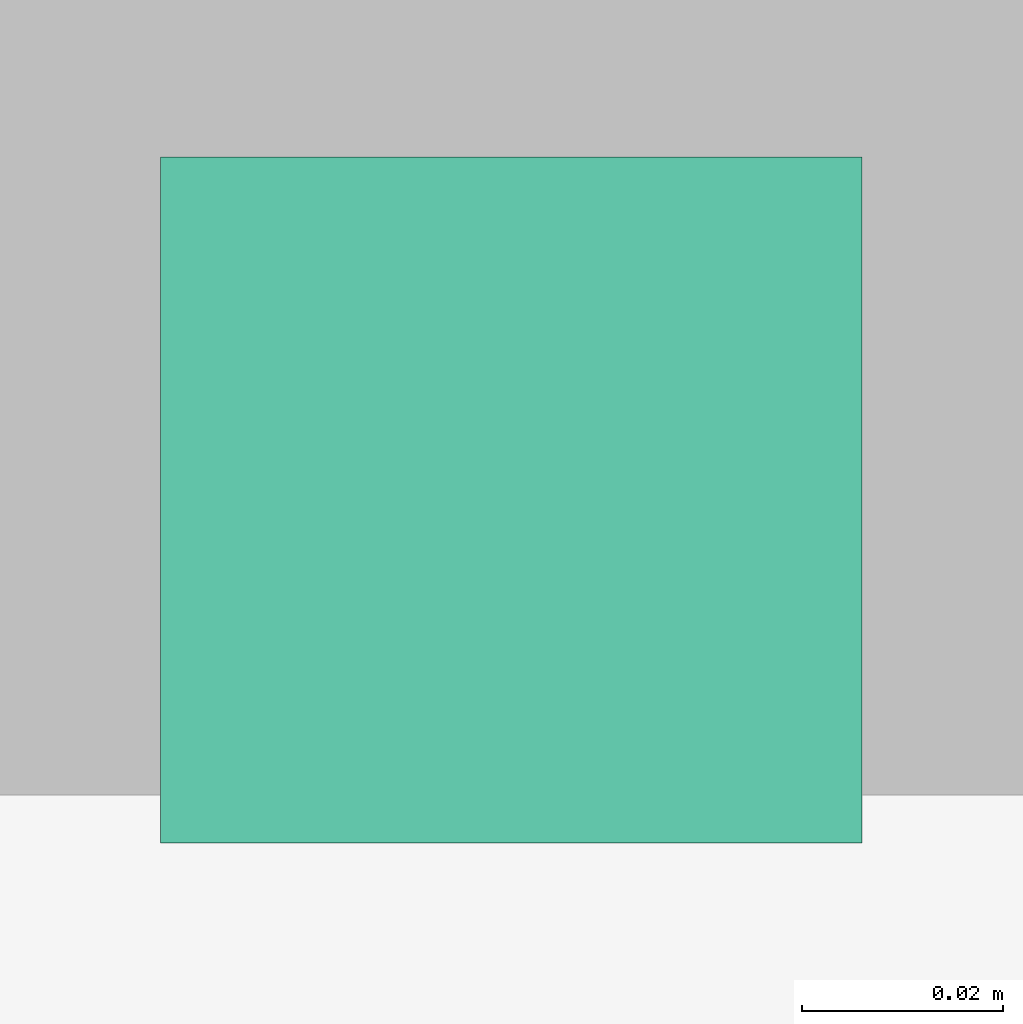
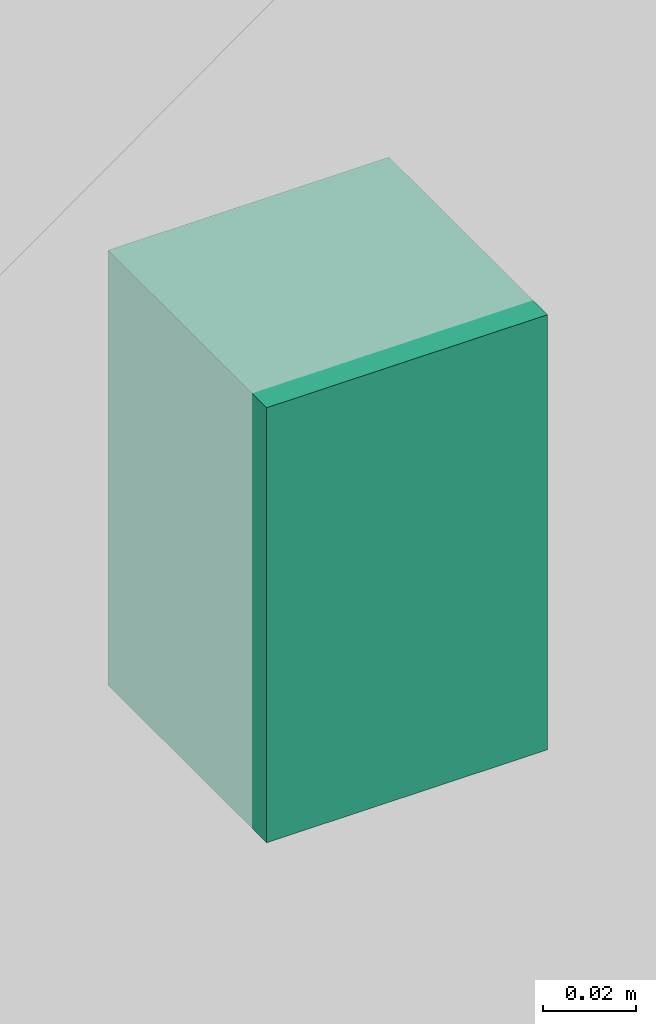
# One storey, part 82 of 108: 1 outlet.
"""IFC4 building model written with IfcOpenShell, lengths in feet."""

import ifcopenshell
import ifcopenshell.guid

model = None  # the IFC model being written
_history = None  # IfcOwnerHistory: only IFC2X3 demands one
_inside = {}  # id of a spatial element -> (the spatial element, [elements in it])
_under = {}  # id of a project, library or spatial element -> (it, [spatial elements below it])
_declared = {}  # id of a project -> (the project, [libraries it declares])
_typed = {}  # id of a type object -> (the type object, [elements of that type])
_made_of = {}  # id of a material, layer set ... -> (it, [elements and type objects made of it])


def new_model(schema):
    """Start an empty IFC model of exactly this schema.

    Asked for "IFC4X3", IfcOpenShell would pick the latest addendum, in which some entities
    have other attributes; the version numbers below select the first issue.
    IFC2X3 requires an IfcOwnerHistory on every rooted entity: one is made here for all.
    """
    global model, _history
    if schema == "IFC4X3":
        model = ifcopenshell.file(schema_version=(4, 3, 0, 0))
    else:
        model = ifcopenshell.file(schema=schema)
    _inside.clear()
    _under.clear()
    _declared.clear()
    _typed.clear()
    _made_of.clear()
    _history = None
    if model.schema == "IFC2X3":
        org = make("IfcOrganization", Name="unknown")
        user = make(
            "IfcPersonAndOrganization",
            ThePerson=make("IfcPerson", FamilyName="unknown"),
            TheOrganization=org,
        )
        app = make(
            "IfcApplication",
            ApplicationDeveloper=org,
            Version="unknown",
            ApplicationFullName="unknown",
            ApplicationIdentifier="unknown",
        )
        _history = make(
            "IfcOwnerHistory",
            OwningUser=user,
            OwningApplication=app,
            ChangeAction="ADDED",
            CreationDate=0,
        )
    return model


def make(cls, **values):
    """One entity of the class cls with the attributes given. An attribute that is None is left unset."""
    return model.create_entity(
        cls, **{name: value for name, value in values.items() if value is not None}
    )


def entity(cls, *values):
    """Any entity or typed value of the class cls, its attributes in the order of the schema. None: left unset."""
    e = model.create_entity(cls)
    for i, value in enumerate(values):
        if value is not None:
            e[i] = value
    return e


def rooted(cls, **values):
    """An entity with a GlobalId (a new one), such as an element, a storey or a relation."""
    return make(cls, GlobalId=ifcopenshell.guid.new(), OwnerHistory=_history, **values)


def si_unit(unit_type, name, prefix=None):
    """IfcSIUnit, for example si_unit("LENGTHUNIT", "METRE", prefix="MILLI")."""
    return make("IfcSIUnit", UnitType=unit_type, Prefix=prefix, Name=name)


def converted_unit(unit_type, name, factor, base, dimensions=None, offset=None):
    """IfcConversionBasedUnit, such as the inch: factor (a typed value) times the base unit."""
    return make(
        "IfcConversionBasedUnit"
        if offset is None
        else "IfcConversionBasedUnitWithOffset",
        ConversionOffset=offset,
        Dimensions=None
        if dimensions is None
        else entity("IfcDimensionalExponents", *dimensions),
        UnitType=unit_type,
        Name=name,
        ConversionFactor=make(
            "IfcMeasureWithUnit", ValueComponent=factor, UnitComponent=base
        ),
    )


def derived_unit(unit_type, elements):
    """IfcDerivedUnit: a product of units, each with its exponent."""
    return make(
        "IfcDerivedUnit",
        Elements=[
            make("IfcDerivedUnitElement", Unit=unit, Exponent=power)
            for unit, power in elements
        ],
        UnitType=unit_type,
    )


def assignment(units):
    """IfcUnitAssignment: the units of a project."""
    return None if units is None else make("IfcUnitAssignment", Units=units)


def point(xyz):
    """IfcCartesianPoint."""
    return None if xyz is None else make("IfcCartesianPoint", Coordinates=xyz)


def direction(xyz):
    """IfcDirection."""
    return None if xyz is None else make("IfcDirection", DirectionRatios=xyz)


def frame(location, z_axis=None, x_axis=None):
    """IfcAxis2Placement3D, a coordinate frame: its origin and axes. An axis left out is left unset."""
    return make(
        "IfcAxis2Placement3D",
        Location=point(location),
        Axis=direction(z_axis),
        RefDirection=direction(x_axis),
    )


def frame_2d(location, x_axis=None):
    """IfcAxis2Placement2D, a coordinate frame in the plane: its origin and x axis."""
    return make(
        "IfcAxis2Placement2D", Location=point(location), RefDirection=direction(x_axis)
    )


def origin():
    """The frame at (0, 0, 0) with its axes left unset."""
    return frame((0.0, 0.0, 0.0))


def origin_2d_with_axis():
    """The frame at (0, 0) in the plane with the x axis (1, 0) written out."""
    return frame_2d((0.0, 0.0), x_axis=(1.0, 0.0))


def place(relative_to, where):
    """IfcLocalPlacement: puts the frame where relative to a parent placement (None: the world)."""
    return make(
        "IfcLocalPlacement", PlacementRelTo=relative_to, RelativePlacement=where
    )


def context(
    kind, dimensions, precision=None, world=None, true_north=None, identifier=None
):
    """IfcGeometricRepresentationContext, for example the 3D "Model" context."""
    return make(
        "IfcGeometricRepresentationContext",
        ContextIdentifier=identifier,
        ContextType=kind,
        CoordinateSpaceDimension=dimensions,
        Precision=precision,
        WorldCoordinateSystem=world,
        TrueNorth=true_north,
    )


def subcontext(parent, identifier, kind, view, scale=None):
    """IfcGeometricRepresentationSubContext, for example "Body" below "Model"."""
    return make(
        "IfcGeometricRepresentationSubContext",
        ContextIdentifier=identifier,
        ContextType=kind,
        ParentContext=parent,
        TargetScale=scale,
        TargetView=view,
    )


def project(units=None, contexts=None):
    """IfcProject with its units and contexts."""
    return rooted(
        "IfcProject",
        Name="project",
        RepresentationContexts=contexts,
        UnitsInContext=assignment(units),
    )


def spatial(cls, under=None, at=None, **own):
    """A site, building, storey or space (cls), placed at a placement, below another one or the project."""
    s = rooted(cls, ObjectPlacement=at, **own)
    if under is not None:
        _under.setdefault(under.id(), (under, []))[1].append(s)
    return s


def profile(cls, at=None, kind="AREA", **sizes):
    """A parametric profile (cls). Its sizes go by their IFC names, for example OverallWidth=200.0."""
    return make(cls, ProfileType=kind, Position=at, **sizes)


def rectangle(**sizes):
    """IfcRectangleProfileDef."""
    return profile("IfcRectangleProfileDef", **sizes)


def extrude(swept, where, along, depth):
    """IfcExtrudedAreaSolid: the profile swept, set in the frame where, extruded along a direction by depth."""
    return make(
        "IfcExtrudedAreaSolid",
        SweptArea=swept,
        Position=where,
        ExtrudedDirection=direction(along),
        Depth=depth,
    )


def shape(context_of_items, identifier, shape_type, items):
    """IfcShapeRepresentation: the items that make up one representation, for example the "Body"."""
    return make(
        "IfcShapeRepresentation",
        ContextOfItems=context_of_items,
        RepresentationIdentifier=identifier,
        RepresentationType=shape_type,
        Items=items,
    )


def source(mapping_origin, context_of_items, identifier, shape_type, items):
    """IfcRepresentationMap: a shape defined once, which mapped items show again and again."""
    return make(
        "IfcRepresentationMap",
        MappingOrigin=mapping_origin,
        MappedRepresentation=shape(context_of_items, identifier, shape_type, items),
    )


def transform(
    local_origin,
    x_axis=None,
    y_axis=None,
    z_axis=None,
    scale=None,
    scale2=None,
    scale3=None,
    uniform=True,
):
    """IfcCartesianTransformationOperator3D, or its non-uniform kind. x_axis, y_axis, z_axis: its Axis1, 2, 3."""
    if uniform:
        return make(
            "IfcCartesianTransformationOperator3D",
            Axis1=direction(x_axis),
            Axis2=direction(y_axis),
            LocalOrigin=point(local_origin),
            Scale=scale,
            Axis3=direction(z_axis),
        )
    return make(
        "IfcCartesianTransformationOperator3DnonUniform",
        Axis1=direction(x_axis),
        Axis2=direction(y_axis),
        LocalOrigin=point(local_origin),
        Scale=scale,
        Axis3=direction(z_axis),
        Scale2=scale2,
        Scale3=scale3,
    )


def mapped(mapping_source, mapping_target):
    """IfcMappedItem: shows the shape of a source again, moved by a transform."""
    return make(
        "IfcMappedItem", MappingSource=mapping_source, MappingTarget=mapping_target
    )


def made_of(thing, what):
    """Note that an element or type object is made of a material, layer set ...; save() writes the relation."""
    if what is not None:
        _made_of.setdefault(what.id(), (what, []))[1].append(thing)
    return thing


def type_object(cls, material=None, **own):
    """A type object (cls), such as IfcWallType, which elements share."""
    return made_of(rooted(cls, **own), material)


def type_shapes(of_type, sources):
    """Give a type object the sources (RepresentationMaps) that its elements show as mapped items."""
    of_type.RepresentationMaps = sources


def element(
    cls,
    number,
    at=None,
    inside=None,
    cuts=None,
    type_object=None,
    material=None,
    context=None,
    identifier="Body",
    shape_type=None,
    held_by="IfcProductDefinitionShape",
    body=None,
    shapes=None,
    **own,
):
    """One element of the class cls, such as IfcWall. Its Tag is "e" and its number.

    at: its placement. inside: the storey or other place that contains it. cuts: it is an
    opening in that element (IfcRelVoidsElement). A single representation is given by context,
    identifier, shape_type and body (its items); several are given by shapes. held_by: the class
    of the entity that holds the representations. save() writes the other relations.
    """
    e = rooted(cls, Tag="e%d" % number, ObjectPlacement=at, **own)
    if body is not None:
        shapes = [shape(context, identifier, shape_type, body)]
    if shapes is not None:
        e.Representation = make(held_by, Representations=shapes)
    if inside is not None:
        _inside.setdefault(inside.id(), (inside, []))[1].append(e)
    if cuts is not None:
        rooted(
            "IfcRelVoidsElement", RelatingBuildingElement=cuts, RelatedOpeningElement=e
        )
    if type_object is not None:
        _typed.setdefault(type_object.id(), (type_object, []))[1].append(e)
    return made_of(e, material)


def aggregate(whole, parts):
    """IfcRelAggregates: a whole, such as a stair, and the parts it consists of."""
    return rooted("IfcRelAggregates", RelatingObject=whole, RelatedObjects=parts)


def save(model, path):
    """Write the relations noted so far, then the file.

    IfcRelAggregates (storeys below a building ...), IfcRelContainedInSpatialStructure (elements
    in a storey), IfcRelDefinesByType, IfcRelAssociatesMaterial and IfcRelDeclares: one each for
    every whole, place, type object, material and project.
    """
    for whole, parts in _under.values():
        aggregate(whole, parts)
    for where, things in _inside.values():
        rooted(
            "IfcRelContainedInSpatialStructure",
            RelatedElements=things,
            RelatingStructure=where,
        )
    for kind, things in _typed.values():
        rooted("IfcRelDefinesByType", RelatedObjects=things, RelatingType=kind)
    for what, things in _made_of.values():
        rooted("IfcRelAssociatesMaterial", RelatedObjects=things, RelatingMaterial=what)
    for by, libraries in _declared.values():
        rooted("IfcRelDeclares", RelatingContext=by, RelatedDefinitions=libraries)
    model.write(path)


model = new_model("IFC4")

# Units and contexts
model_context = context("Model", 3, precision=0.0001, world=origin(), true_north=direction((6.12303176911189e-17, 1.0)))
body_context = subcontext(model_context, "Body", "Model", "MODEL_VIEW")
ifc_project = project(units=[converted_unit("LENGTHUNIT", "FOOT", entity("IfcRatioMeasure", 0.3048), si_unit("LENGTHUNIT", "METRE"), dimensions=[1, 0, 0, 0, 0, 0, 0]), converted_unit("AREAUNIT", "SQUARE FOOT", entity("IfcRatioMeasure", 0.09290304), si_unit("AREAUNIT", "SQUARE_METRE"), dimensions=[2, 0, 0, 0, 0, 0, 0]), converted_unit("VOLUMEUNIT", "CUBIC FOOT", entity("IfcRatioMeasure", 0.028316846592), si_unit("VOLUMEUNIT", "CUBIC_METRE"), dimensions=[3, 0, 0, 0, 0, 0, 0]), converted_unit("PLANEANGLEUNIT", "DEGREE", entity("IfcRatioMeasure", 0.0174532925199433), si_unit("PLANEANGLEUNIT", "RADIAN"), dimensions=[0, 0, 0, 0, 0, 0, 0]), si_unit("MASSUNIT", "GRAM", prefix="KILO"), derived_unit("MASSDENSITYUNIT", [(si_unit("MASSUNIT", "GRAM", prefix="KILO"), 1), (si_unit("LENGTHUNIT", "METRE"), -3)]), si_unit("TIMEUNIT", "SECOND"), si_unit("FREQUENCYUNIT", "HERTZ"), si_unit("THERMODYNAMICTEMPERATUREUNIT", "DEGREE_CELSIUS"), derived_unit("THERMALTRANSMITTANCEUNIT", [(si_unit("MASSUNIT", "GRAM", prefix="KILO"), 1), (si_unit("THERMODYNAMICTEMPERATUREUNIT", "KELVIN"), -1), (si_unit("TIMEUNIT", "SECOND"), -3)]), derived_unit("VOLUMETRICFLOWRATEUNIT", [(si_unit("LENGTHUNIT", "METRE"), 3), (si_unit("TIMEUNIT", "SECOND"), -1)]), si_unit("ELECTRICCURRENTUNIT", "AMPERE"), si_unit("ELECTRICVOLTAGEUNIT", "VOLT"), si_unit("POWERUNIT", "WATT"), si_unit("FORCEUNIT", "NEWTON"), si_unit("ILLUMINANCEUNIT", "LUX"), si_unit("LUMINOUSFLUXUNIT", "LUMEN"), si_unit("LUMINOUSINTENSITYUNIT", "CANDELA"), derived_unit("USERDEFINED", [(si_unit("MASSUNIT", "GRAM", prefix="KILO"), -1), (si_unit("LENGTHUNIT", "METRE"), -2), (si_unit("TIMEUNIT", "SECOND"), 3), (si_unit("LUMINOUSFLUXUNIT", "LUMEN"), 1)]), derived_unit("LINEARVELOCITYUNIT", [(si_unit("LENGTHUNIT", "METRE"), 1), (si_unit("TIMEUNIT", "SECOND"), -1)]), si_unit("PRESSUREUNIT", "PASCAL"), derived_unit("USERDEFINED", [(si_unit("LENGTHUNIT", "METRE"), -2), (si_unit("MASSUNIT", "GRAM", prefix="KILO"), 1), (si_unit("TIMEUNIT", "SECOND"), -2)])], contexts=[model_context])

# Site, building, storey
site_placement = place(None, origin())
site = spatial("IfcSite", under=ifc_project, at=site_placement, Name="Default", CompositionType="ELEMENT")
building_placement = place(site_placement, origin())
building = spatial("IfcBuilding", under=site, at=building_placement, CompositionType="ELEMENT")
storey_placement = place(building_placement, frame((0.0, 0.0, 168.0)))
storey = spatial("IfcBuildingStorey", under=building, at=storey_placement, Name="Level 15", CompositionType="ELEMENT", Elevation=168.0)

# Outlet
outlet_type = type_object("IfcOutletType", Name="Duplex-Standard 2", PredefinedType="POWEROUTLET")
shared_shape = source(origin(), body_context, "Body", "SweptSolid", [
    extrude(rectangle(XDim=0.229166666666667, YDim=0.375000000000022, at=origin_2d_with_axis()), frame((0.0, 0.0, -0.208333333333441), z_axis=(0.0, 0.0, 1.0), x_axis=(-1.0, 0.0, 0.0)), (0.0, 0.0, 1.0), 0.208333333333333),
    extrude(rectangle(XDim=0.229166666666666, YDim=0.375000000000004, at=origin_2d_with_axis()), frame((0.0, 0.0, 0.0), z_axis=(0.0, 0.0, 1.0), x_axis=(-1.0, 0.0, 0.0)), (0.0, 0.0, 1.0), 0.015625),
])
type_shapes(outlet_type, [shared_shape])
outlet_placement = place(storey_placement, frame((16.4624622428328, 15.3174002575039, 1.16666666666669), z_axis=(0.0, -1.0, 0.0), x_axis=(1.0, 0.0, 0.0)))
element("IfcOutlet", 1, at=outlet_placement, inside=storey, type_object=outlet_type, Name="Power-Recessed-All2:Duplex-Standard 2", ObjectType="Power-Recessed-All2:Duplex-Standard 2", PredefinedType="POWEROUTLET", context=body_context, shape_type="MappedRepresentation", body=[
    mapped(shared_shape, transform((0.0, 0.0, 0.0), scale=1.0)),
])

save(model, "model.ifc")
